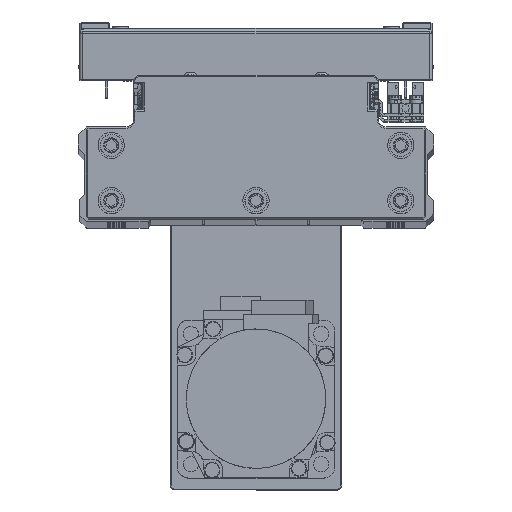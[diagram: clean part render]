
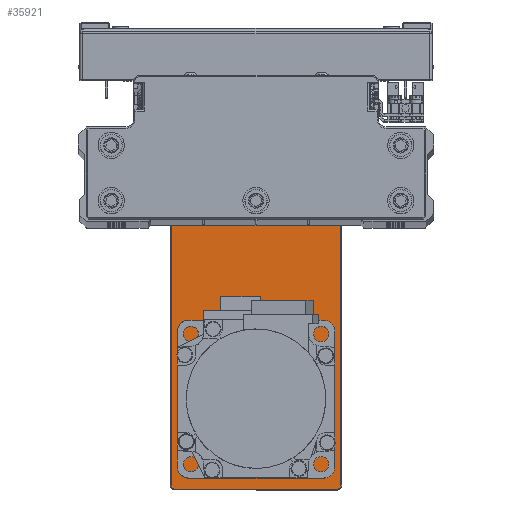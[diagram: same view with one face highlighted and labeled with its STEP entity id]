
A CAD part, top view. The second image highlights one B-rep face of the part: STEP entity #35921.
In plain terms, the highlighted planar face has unit normal (0, 0, 1) as drawn and (0, 1, 0) by its records, which use the part's own axes.
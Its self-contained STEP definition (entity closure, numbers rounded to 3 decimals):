
#166 = CARTESIAN_POINT ( 'NONE',  ( 84.7, 6., 0. ) ) ;
#411 = EDGE_LOOP ( 'NONE', ( #38335, #12871, #27818, #7092, #2184, #14581, #38663, #42369 ) ) ;
#998 = CARTESIAN_POINT ( 'NONE',  ( -84.7, 6., 31. ) ) ;
#1000 = ORIENTED_EDGE ( 'NONE', *, *, #10876, .F. ) ;
#1133 = CARTESIAN_POINT ( 'NONE',  ( 83.5, 6., -32.2 ) ) ;
#1262 = AXIS2_PLACEMENT_3D ( 'NONE', #30328, #44231, #12971 ) ;
#1516 = CARTESIAN_POINT ( 'NONE',  ( 61.051, 6., 23.492 ) ) ;
#1938 = CARTESIAN_POINT ( 'NONE',  ( 0., 6., 32.2 ) ) ;
#2107 = CARTESIAN_POINT ( 'NONE',  ( -50.5, 6., 15. ) ) ;
#2184 = ORIENTED_EDGE ( 'NONE', *, *, #16264, .T. ) ;
#2428 = FACE_BOUND ( 'NONE', #6432, .T. ) ;
#3450 = DIRECTION ( 'NONE',  ( 0., 0., 1. ) ) ;
#3761 = CIRCLE ( 'NONE', #29325, 1.525 ) ;
#3903 = CARTESIAN_POINT ( 'NONE',  ( 75.992, 6., -8.551 ) ) ;
#4020 = CIRCLE ( 'NONE', #29589, 1.2 ) ;
#4093 = VERTEX_POINT ( 'NONE', #15455 ) ;
#4164 = AXIS2_PLACEMENT_3D ( 'NONE', #20818, #34748, #3450 ) ;
#4200 = CARTESIAN_POINT ( 'NONE',  ( -50.5, 6., -15. ) ) ;
#4240 = CIRCLE ( 'NONE', #29807, 1.2 ) ;
#4390 = VERTEX_POINT ( 'NONE', #34586 ) ;
#4590 = EDGE_CURVE ( 'NONE', #19180, #39688, #22486, .T. ) ;
#4793 = CARTESIAN_POINT ( 'NONE',  ( 61.051, 6., 25.017 ) ) ;
#4882 = DIRECTION ( 'NONE',  ( 0., 0., -1. ) ) ;
#4997 = DIRECTION ( 'NONE',  ( 0., 0., -1. ) ) ;
#5109 = DIRECTION ( 'NONE',  ( -1., 0., 0. ) ) ;
#5236 = CIRCLE ( 'NONE', #30769, 15. ) ;
#5736 = VERTEX_POINT ( 'NONE', #998 ) ;
#5737 = VERTEX_POINT ( 'NONE', #14955 ) ;
#5875 = FACE_BOUND ( 'NONE', #9463, .T. ) ;
#6065 = CARTESIAN_POINT ( 'NONE',  ( 52.5, 6., 10.3 ) ) ;
#6067 = VECTOR ( 'NONE', #14127, 1000. ) ;
#6432 = EDGE_LOOP ( 'NONE', ( #25130, #9878 ) ) ;
#6668 = CARTESIAN_POINT ( 'NONE',  ( 75.992, 6., -7.026 ) ) ;
#6908 = VECTOR ( 'NONE', #5109, 1000. ) ;
#7036 = DIRECTION ( 'NONE',  ( 0., 0., 1. ) ) ;
#7092 = ORIENTED_EDGE ( 'NONE', *, *, #18052, .T. ) ;
#7324 = CIRCLE ( 'NONE', #32876, 1.2 ) ;
#7923 = ORIENTED_EDGE ( 'NONE', *, *, #25859, .T. ) ;
#8343 = EDGE_CURVE ( 'NONE', #39688, #12670, #4240, .T. ) ;
#8559 = AXIS2_PLACEMENT_3D ( 'NONE', #29628, #43527, #12281 ) ;
#8866 = DIRECTION ( 'NONE',  ( 0., 1., 0. ) ) ;
#9068 = CARTESIAN_POINT ( 'NONE',  ( -83.5, 6., -31. ) ) ;
#9234 = EDGE_CURVE ( 'NONE', #19997, #4093, #31484, .T. ) ;
#9463 = EDGE_LOOP ( 'NONE', ( #16067, #34669 ) ) ;
#9510 = EDGE_LOOP ( 'NONE', ( #7923, #43725 ) ) ;
#9515 = CARTESIAN_POINT ( 'NONE',  ( -84.7, 6., 0. ) ) ;
#9878 = ORIENTED_EDGE ( 'NONE', *, *, #19736, .F. ) ;
#10073 = CARTESIAN_POINT ( 'NONE',  ( 83.5, 6., -31. ) ) ;
#10876 = EDGE_CURVE ( 'NONE', #5737, #20525, #12786, .T. ) ;
#12254 = DIRECTION ( 'NONE',  ( 0., 1., 0. ) ) ;
#12281 = DIRECTION ( 'NONE',  ( 0., 0., -1. ) ) ;
#12670 = VERTEX_POINT ( 'NONE', #33785 ) ;
#12786 = CIRCLE ( 'NONE', #38293, 1.525 ) ;
#12871 = ORIENTED_EDGE ( 'NONE', *, *, #4590, .T. ) ;
#12971 = DIRECTION ( 'NONE',  ( 0., 0., -1. ) ) ;
#13118 = EDGE_LOOP ( 'NONE', ( #30979, #1000 ) ) ;
#13772 = CIRCLE ( 'NONE', #39302, 10.3 ) ;
#14127 = DIRECTION ( 'NONE',  ( 0., 0., -1. ) ) ;
#14294 = CARTESIAN_POINT ( 'NONE',  ( 83.5, 6., 31. ) ) ;
#14361 = VECTOR ( 'NONE', #15896, 1000. ) ;
#14581 = ORIENTED_EDGE ( 'NONE', *, *, #35064, .T. ) ;
#14946 = VERTEX_POINT ( 'NONE', #4200 ) ;
#14955 = CARTESIAN_POINT ( 'NONE',  ( 61.051, 6., 21.967 ) ) ;
#15455 = CARTESIAN_POINT ( 'NONE',  ( 84.7, 6., -31. ) ) ;
#15469 = DIRECTION ( 'NONE',  ( 0., 1., 0. ) ) ;
#15896 = DIRECTION ( 'NONE',  ( 1., 0., 0. ) ) ;
#16067 = ORIENTED_EDGE ( 'NONE', *, *, #35708, .F. ) ;
#16264 = EDGE_CURVE ( 'NONE', #5736, #40787, #39626, .T. ) ;
#16383 = PLANE ( 'NONE',  #1262 ) ;
#16787 = VERTEX_POINT ( 'NONE', #30057 ) ;
#17854 = DIRECTION ( 'NONE',  ( 0., 1., 0. ) ) ;
#17891 = EDGE_CURVE ( 'NONE', #20525, #5737, #3761, .T. ) ;
#18052 = EDGE_CURVE ( 'NONE', #12670, #5736, #40786, .T. ) ;
#18592 = VERTEX_POINT ( 'NONE', #6668 ) ;
#19180 = VERTEX_POINT ( 'NONE', #1133 ) ;
#19538 = EDGE_CURVE ( 'NONE', #31322, #14946, #5236, .T. ) ;
#19736 = EDGE_CURVE ( 'NONE', #14946, #31322, #35882, .T. ) ;
#19810 = FACE_BOUND ( 'NONE', #9510, .T. ) ;
#19997 = VERTEX_POINT ( 'NONE', #31650 ) ;
#20525 = VERTEX_POINT ( 'NONE', #4793 ) ;
#20818 = CARTESIAN_POINT ( 'NONE',  ( 75.992, 6., -8.551 ) ) ;
#22254 = CARTESIAN_POINT ( 'NONE',  ( 52.5, 6., 0. ) ) ;
#22366 = CARTESIAN_POINT ( 'NONE',  ( -83.5, 6., 31. ) ) ;
#22486 = LINE ( 'NONE', #36408, #6908 ) ;
#22788 = DIRECTION ( 'NONE',  ( 0., 0., 1. ) ) ;
#23001 = DIRECTION ( 'NONE',  ( 0., 1., 0. ) ) ;
#23424 = DIRECTION ( 'NONE',  ( 0., 0., 1. ) ) ;
#23864 = CIRCLE ( 'NONE', #4164, 1.525 ) ;
#23915 = AXIS2_PLACEMENT_3D ( 'NONE', #3903, #17854, #31795 ) ;
#23991 = DIRECTION ( 'NONE',  ( 0., 1., 0. ) ) ;
#24411 = CARTESIAN_POINT ( 'NONE',  ( -50.5, 6., 0. ) ) ;
#25130 = ORIENTED_EDGE ( 'NONE', *, *, #19538, .F. ) ;
#25798 = AXIS2_PLACEMENT_3D ( 'NONE', #22366, #36296, #4997 ) ;
#25859 = EDGE_CURVE ( 'NONE', #29607, #4390, #28257, .T. ) ;
#26203 = DIRECTION ( 'NONE',  ( 0., 0., 1. ) ) ;
#27818 = ORIENTED_EDGE ( 'NONE', *, *, #8343, .T. ) ;
#28246 = DIRECTION ( 'NONE',  ( 0., 1., 0. ) ) ;
#28257 = CIRCLE ( 'NONE', #8559, 10.3 ) ;
#28591 = EDGE_CURVE ( 'NONE', #16787, #19997, #7324, .T. ) ;
#29325 = AXIS2_PLACEMENT_3D ( 'NONE', #1516, #15469, #29406 ) ;
#29406 = DIRECTION ( 'NONE',  ( 0., 0., 1. ) ) ;
#29589 = AXIS2_PLACEMENT_3D ( 'NONE', #10073, #23991, #37914 ) ;
#29607 = VERTEX_POINT ( 'NONE', #6065 ) ;
#29628 = CARTESIAN_POINT ( 'NONE',  ( 52.5, 6., 0. ) ) ;
#29807 = AXIS2_PLACEMENT_3D ( 'NONE', #9068, #23001, #36923 ) ;
#30057 = CARTESIAN_POINT ( 'NONE',  ( 83.5, 6., 32.2 ) ) ;
#30328 = CARTESIAN_POINT ( 'NONE',  ( 0., 6., 0. ) ) ;
#30769 = AXIS2_PLACEMENT_3D ( 'NONE', #24411, #38327, #7036 ) ;
#30842 = CARTESIAN_POINT ( 'NONE',  ( -83.5, 6., 32.2 ) ) ;
#30979 = ORIENTED_EDGE ( 'NONE', *, *, #17891, .F. ) ;
#31322 = VERTEX_POINT ( 'NONE', #2107 ) ;
#31484 = LINE ( 'NONE', #166, #6067 ) ;
#31650 = CARTESIAN_POINT ( 'NONE',  ( 84.7, 6., 31. ) ) ;
#31795 = DIRECTION ( 'NONE',  ( 0., 0., 1. ) ) ;
#31915 = CARTESIAN_POINT ( 'NONE',  ( 75.992, 6., -10.076 ) ) ;
#32487 = VERTEX_POINT ( 'NONE', #31915 ) ;
#32876 = AXIS2_PLACEMENT_3D ( 'NONE', #14294, #28246, #42146 ) ;
#33238 = LINE ( 'NONE', #1938, #14361 ) ;
#33741 = FACE_OUTER_BOUND ( 'NONE', #411, .T. ) ;
#33785 = CARTESIAN_POINT ( 'NONE',  ( -84.7, 6., -31. ) ) ;
#34586 = CARTESIAN_POINT ( 'NONE',  ( 52.5, 6., -10.3 ) ) ;
#34669 = ORIENTED_EDGE ( 'NONE', *, *, #36947, .F. ) ;
#34748 = DIRECTION ( 'NONE',  ( 0., 1., 0. ) ) ;
#35064 = EDGE_CURVE ( 'NONE', #40787, #16787, #33238, .T. ) ;
#35708 = EDGE_CURVE ( 'NONE', #18592, #32487, #23864, .T. ) ;
#35882 = CIRCLE ( 'NONE', #41706, 15. ) ;
#35921 = ADVANCED_FACE ( 'NONE', ( #37171, #5875, #19810, #33741, #2428 ), #16383, .F. ) ;
#36178 = DIRECTION ( 'NONE',  ( 0., -1., 0. ) ) ;
#36296 = DIRECTION ( 'NONE',  ( 0., 1., 0. ) ) ;
#36408 = CARTESIAN_POINT ( 'NONE',  ( 0., 6., -32.2 ) ) ;
#36606 = VECTOR ( 'NONE', #23424, 1000. ) ;
#36923 = DIRECTION ( 'NONE',  ( 0., 0., -1. ) ) ;
#36947 = EDGE_CURVE ( 'NONE', #32487, #18592, #43599, .T. ) ;
#37171 = FACE_BOUND ( 'NONE', #13118, .T. ) ;
#37914 = DIRECTION ( 'NONE',  ( 0., 0., -1. ) ) ;
#37928 = EDGE_CURVE ( 'NONE', #4390, #29607, #13772, .T. ) ;
#38293 = AXIS2_PLACEMENT_3D ( 'NONE', #43503, #12254, #26203 ) ;
#38327 = DIRECTION ( 'NONE',  ( 0., 1., 0. ) ) ;
#38335 = ORIENTED_EDGE ( 'NONE', *, *, #43482, .T. ) ;
#38663 = ORIENTED_EDGE ( 'NONE', *, *, #28591, .T. ) ;
#39302 = AXIS2_PLACEMENT_3D ( 'NONE', #22254, #36178, #4882 ) ;
#39626 = CIRCLE ( 'NONE', #25798, 1.2 ) ;
#39688 = VERTEX_POINT ( 'NONE', #44962 ) ;
#40146 = CARTESIAN_POINT ( 'NONE',  ( -50.5, 6., 0. ) ) ;
#40786 = LINE ( 'NONE', #9515, #36606 ) ;
#40787 = VERTEX_POINT ( 'NONE', #30842 ) ;
#41706 = AXIS2_PLACEMENT_3D ( 'NONE', #40146, #8866, #22788 ) ;
#42146 = DIRECTION ( 'NONE',  ( 0., 0., -1. ) ) ;
#42369 = ORIENTED_EDGE ( 'NONE', *, *, #9234, .T. ) ;
#43482 = EDGE_CURVE ( 'NONE', #4093, #19180, #4020, .T. ) ;
#43503 = CARTESIAN_POINT ( 'NONE',  ( 61.051, 6., 23.492 ) ) ;
#43527 = DIRECTION ( 'NONE',  ( 0., -1., 0. ) ) ;
#43599 = CIRCLE ( 'NONE', #23915, 1.525 ) ;
#43725 = ORIENTED_EDGE ( 'NONE', *, *, #37928, .T. ) ;
#44231 = DIRECTION ( 'NONE',  ( 0., -1., 0. ) ) ;
#44962 = CARTESIAN_POINT ( 'NONE',  ( -83.5, 6., -32.2 ) ) ;
